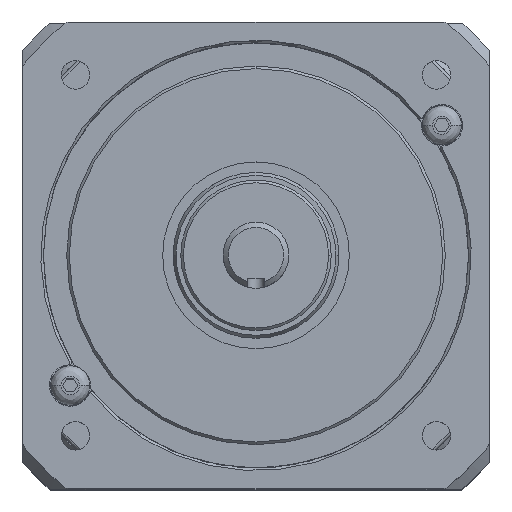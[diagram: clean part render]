
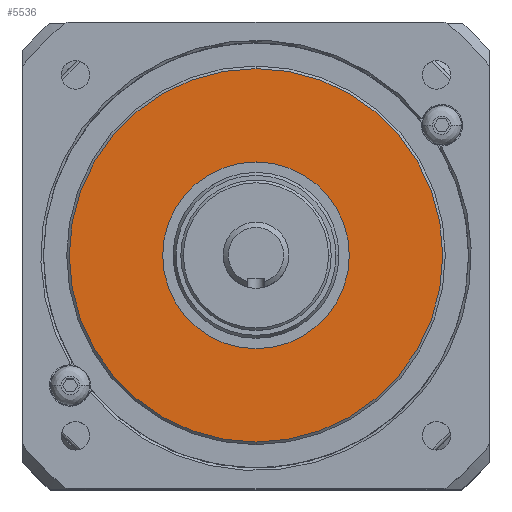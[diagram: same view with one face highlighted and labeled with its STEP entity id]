
A CAD part, top view. The second image highlights one B-rep face of the part: STEP entity #5536.
In plain terms, the highlighted planar face has unit normal (0, 0, 1).
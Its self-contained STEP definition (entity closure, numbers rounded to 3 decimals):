
#5317=CARTESIAN_POINT('',(0.,0.,61.7));
#5318=DIRECTION('',(0.,0.,-1.));
#5319=DIRECTION('',(-1.,0.,0.));
#5320=AXIS2_PLACEMENT_3D('',#5317,#5318,#5319);
#5322=CARTESIAN_POINT('',(0.,0.,61.7));
#5323=DIRECTION('',(0.,0.,-1.));
#5324=DIRECTION('',(1.,0.,0.));
#5325=AXIS2_PLACEMENT_3D('',#5322,#5323,#5324);
#5327=CARTESIAN_POINT('',(0.,0.,
61.7));
#5328=DIRECTION('',(0.,0.,1.));
#5329=DIRECTION('',(0.,1.,0.));
#5330=AXIS2_PLACEMENT_3D('',#5327,#5328,#5329);
#5332=CARTESIAN_POINT('',(0.,0.,
61.7));
#5333=DIRECTION('',(0.,0.,1.));
#5334=DIRECTION('',(0.,-1.,0.));
#5335=AXIS2_PLACEMENT_3D('',#5332,#5333,#5334);
#5475=CARTESIAN_POINT('',(-18.,0.,61.7));
#5476=CARTESIAN_POINT('',(18.,0.,61.7));
#5477=VERTEX_POINT('',#5475);
#5478=VERTEX_POINT('',#5476);
#5511=CARTESIAN_POINT('',(0.,36.012,61.7));
#5512=CARTESIAN_POINT('',(0.,-36.012,61.7));
#5513=VERTEX_POINT('',#5511);
#5514=VERTEX_POINT('',#5512);
#5519=CARTESIAN_POINT('',(0.,0.,61.7));
#5520=DIRECTION('',(0.,0.,1.));
#5521=DIRECTION('',(1.,0.,0.));
#5522=AXIS2_PLACEMENT_3D('',#5519,#5520,#5521);
#5523=PLANE('',#5522);
#5525=ORIENTED_EDGE('',*,*,#5524,.F.);
#5527=ORIENTED_EDGE('',*,*,#5526,.F.);
#5528=EDGE_LOOP('',(#5525,#5527));
#5529=FACE_OUTER_BOUND('',#5528,.F.);
#5531=ORIENTED_EDGE('',*,*,#5530,.F.);
#5533=ORIENTED_EDGE('',*,*,#5532,.F.);
#5534=EDGE_LOOP('',(#5531,#5533));
#5535=FACE_BOUND('',#5534,.F.);
#5536=ADVANCED_FACE('',(#5529,#5535),#5523,.T.);
#5321=CIRCLE('',#5320,18.);
#5326=CIRCLE('',#5325,18.);
#5331=CIRCLE('',#5330,36.012);
#5336=CIRCLE('',#5335,36.012);
#5524=EDGE_CURVE('',#5513,#5514,#5331,.T.);
#5526=EDGE_CURVE('',#5514,#5513,#5336,.T.);
#5530=EDGE_CURVE('',#5477,#5478,#5321,.T.);
#5532=EDGE_CURVE('',#5478,#5477,#5326,.T.);
